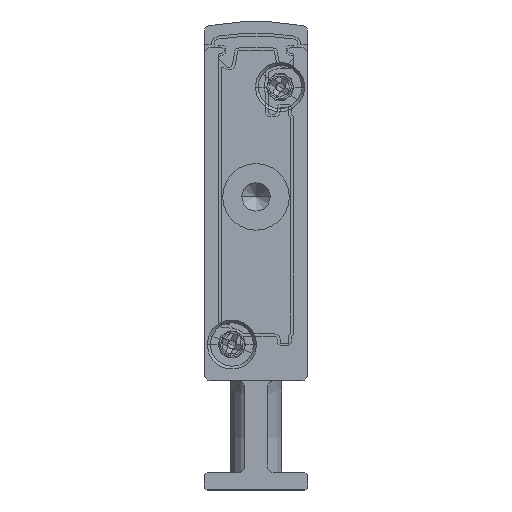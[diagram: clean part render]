
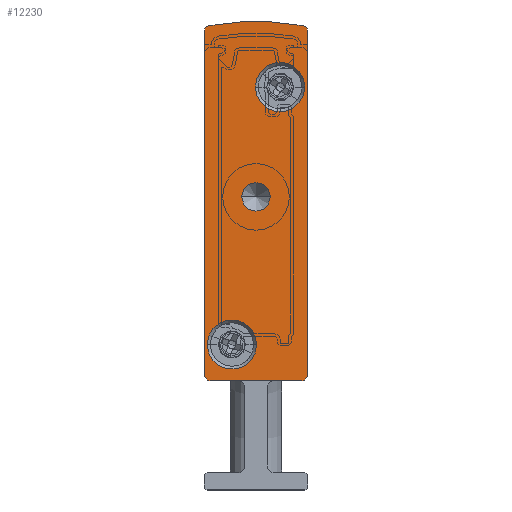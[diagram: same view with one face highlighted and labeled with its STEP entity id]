
A CAD part, front view. The second image highlights one B-rep face of the part: STEP entity #12230.
In plain terms, the highlighted planar face has unit normal (0, -1, 0).
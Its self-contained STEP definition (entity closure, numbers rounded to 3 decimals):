
#211 = AXIS2_PLACEMENT_3D ( 'NONE', #10282, #19526, #8897 ) ;
#276 = DIRECTION ( 'NONE',  ( 0., 1., 0. ) ) ;
#702 = CIRCLE ( 'NONE', #2559, 0.5 ) ;
#892 = EDGE_CURVE ( 'NONE', #13974, #13236, #7520, .T. ) ;
#1144 = FACE_BOUND ( 'NONE', #17922, .T. ) ;
#1153 = EDGE_LOOP ( 'NONE', ( #3478, #3242, #18495, #11240, #10588, #17582, #14154, #4224 ) ) ;
#1217 = DIRECTION ( 'NONE',  ( 1., 0., 0. ) ) ;
#1476 = DIRECTION ( 'NONE',  ( 0., 1., 0. ) ) ;
#2001 = VERTEX_POINT ( 'NONE', #2553 ) ;
#2228 = VERTEX_POINT ( 'NONE', #9335 ) ;
#2386 = DIRECTION ( 'NONE',  ( -1., 0., 0. ) ) ;
#2437 = VERTEX_POINT ( 'NONE', #9455 ) ;
#2446 = CARTESIAN_POINT ( 'NONE',  ( 8.592, -2.5, 40.393 ) ) ;
#2553 = CARTESIAN_POINT ( 'NONE',  ( 0.25, -2.5, 12.65 ) ) ;
#2559 = AXIS2_PLACEMENT_3D ( 'NONE', #18258, #4574, #12361 ) ;
#2587 = EDGE_LOOP ( 'NONE', ( #8119, #17499 ) ) ;
#3146 = EDGE_CURVE ( 'NONE', #12506, #14432, #16097, .T. ) ;
#3242 = ORIENTED_EDGE ( 'NONE', *, *, #3146, .F. ) ;
#3312 = FACE_BOUND ( 'NONE', #2587, .T. ) ;
#3406 = AXIS2_PLACEMENT_3D ( 'NONE', #12368, #1476, #15459 ) ;
#3478 = ORIENTED_EDGE ( 'NONE', *, *, #4890, .F. ) ;
#3857 = DIRECTION ( 'NONE',  ( 0., -1., 0. ) ) ;
#4224 = ORIENTED_EDGE ( 'NONE', *, *, #892, .F. ) ;
#4239 = CARTESIAN_POINT ( 'NONE',  ( 6.6, -2.5, 35.05 ) ) ;
#4481 = ORIENTED_EDGE ( 'NONE', *, *, #16121, .F. ) ;
#4574 = DIRECTION ( 'NONE',  ( 0., 1., 0. ) ) ;
#4754 = CIRCLE ( 'NONE', #3406, 0.5 ) ;
#4857 = CIRCLE ( 'NONE', #11330, 1.25 ) ;
#4890 = EDGE_CURVE ( 'NONE', #14432, #13974, #702, .T. ) ;
#5010 = AXIS2_PLACEMENT_3D ( 'NONE', #7862, #18575, #10784 ) ;
#5027 = VERTEX_POINT ( 'NONE', #15600 ) ;
#5109 = VERTEX_POINT ( 'NONE', #5300 ) ;
#5300 = CARTESIAN_POINT ( 'NONE',  ( 4.45, -2.5, 35.05 ) ) ;
#5500 = CIRCLE ( 'NONE', #16361, 1.25 ) ;
#5507 = CIRCLE ( 'NONE', #211, 2.15 ) ;
#5712 = ORIENTED_EDGE ( 'NONE', *, *, #11156, .F. ) ;
#5715 = FACE_BOUND ( 'NONE', #6075, .T. ) ;
#5786 = DIRECTION ( 'NONE',  ( 0., -1., 0. ) ) ;
#6075 = EDGE_LOOP ( 'NONE', ( #5712, #15091 ) ) ;
#6196 = CIRCLE ( 'NONE', #18620, 2.15 ) ;
#6323 = PLANE ( 'NONE',  #5010 ) ;
#6386 = EDGE_CURVE ( 'NONE', #18625, #2437, #5500, .T. ) ;
#6507 = EDGE_CURVE ( 'NONE', #5109, #13774, #6196, .T. ) ;
#6786 = DIRECTION ( 'NONE',  ( -1., 0., 0. ) ) ;
#6935 = CARTESIAN_POINT ( 'NONE',  ( 0.5, -2.5, 10. ) ) ;
#7155 = AXIS2_PLACEMENT_3D ( 'NONE', #10852, #276, #15702 ) ;
#7298 = DIRECTION ( 'NONE',  ( 1., 0., 0. ) ) ;
#7458 = VERTEX_POINT ( 'NONE', #11051 ) ;
#7520 = CIRCLE ( 'NONE', #14752, 23.658 ) ;
#7567 = DIRECTION ( 'NONE',  ( 0., 0., 1. ) ) ;
#7824 = CIRCLE ( 'NONE', #7155, 0.5 ) ;
#7862 = CARTESIAN_POINT ( 'NONE',  ( 0.5, -2.5, 39.902 ) ) ;
#8119 = ORIENTED_EDGE ( 'NONE', *, *, #6386, .T. ) ;
#8267 = DIRECTION ( 'NONE',  ( -1., 0., 0. ) ) ;
#8530 = CARTESIAN_POINT ( 'NONE',  ( 9., -2.5, 39.902 ) ) ;
#8818 = FACE_OUTER_BOUND ( 'NONE', #1153, .T. ) ;
#8897 = DIRECTION ( 'NONE',  ( 1., 0., 0. ) ) ;
#8903 = CARTESIAN_POINT ( 'NONE',  ( 4.5, -2.5, 17.092 ) ) ;
#9194 = CARTESIAN_POINT ( 'NONE',  ( 0., -2.5, 39.902 ) ) ;
#9286 = DIRECTION ( 'NONE',  ( -1., 0., 0. ) ) ;
#9335 = CARTESIAN_POINT ( 'NONE',  ( 8.5, -2.5, 9.5 ) ) ;
#9455 = CARTESIAN_POINT ( 'NONE',  ( 5.75, -2.5, 25.5 ) ) ;
#10063 = CARTESIAN_POINT ( 'NONE',  ( 8.75, -2.5, 35.05 ) ) ;
#10282 = CARTESIAN_POINT ( 'NONE',  ( 2.4, -2.5, 12.65 ) ) ;
#10310 = CARTESIAN_POINT ( 'NONE',  ( 0., -2.5, 39.902 ) ) ;
#10415 = CARTESIAN_POINT ( 'NONE',  ( 2.4, -2.5, 12.65 ) ) ;
#10588 = ORIENTED_EDGE ( 'NONE', *, *, #12418, .F. ) ;
#10784 = DIRECTION ( 'NONE',  ( -1., 0., 0. ) ) ;
#10852 = CARTESIAN_POINT ( 'NONE',  ( 8.5, -2.5, 39.902 ) ) ;
#11051 = CARTESIAN_POINT ( 'NONE',  ( 4.55, -2.5, 12.65 ) ) ;
#11112 = VECTOR ( 'NONE', #19362, 1000. ) ;
#11156 = EDGE_CURVE ( 'NONE', #13774, #5109, #16439, .T. ) ;
#11240 = ORIENTED_EDGE ( 'NONE', *, *, #17081, .F. ) ;
#11323 = CARTESIAN_POINT ( 'NONE',  ( 4.5, -2.5, 25.5 ) ) ;
#11330 = AXIS2_PLACEMENT_3D ( 'NONE', #16131, #17627, #2386 ) ;
#11505 = LINE ( 'NONE', #19323, #17253 ) ;
#11770 = VECTOR ( 'NONE', #7567, 1000. ) ;
#11979 = DIRECTION ( 'NONE',  ( 0., -1., 0. ) ) ;
#12230 = ADVANCED_FACE ( 'NONE', ( #5715, #1144, #8818, #3312 ), #6323, .F. ) ;
#12361 = DIRECTION ( 'NONE',  ( -1., 0., 0. ) ) ;
#12368 = CARTESIAN_POINT ( 'NONE',  ( 8.5, -2.5, 10. ) ) ;
#12418 = EDGE_CURVE ( 'NONE', #13255, #2228, #4754, .T. ) ;
#12506 = VERTEX_POINT ( 'NONE', #18671 ) ;
#13138 = CARTESIAN_POINT ( 'NONE',  ( 6.6, -2.5, 35.05 ) ) ;
#13236 = VERTEX_POINT ( 'NONE', #2446 ) ;
#13255 = VERTEX_POINT ( 'NONE', #14672 ) ;
#13564 = EDGE_CURVE ( 'NONE', #13236, #5027, #7824, .T. ) ;
#13586 = VERTEX_POINT ( 'NONE', #14210 ) ;
#13774 = VERTEX_POINT ( 'NONE', #10063 ) ;
#13791 = CARTESIAN_POINT ( 'NONE',  ( 0.408, -2.5, 40.393 ) ) ;
#13974 = VERTEX_POINT ( 'NONE', #13791 ) ;
#14154 = ORIENTED_EDGE ( 'NONE', *, *, #13564, .F. ) ;
#14210 = CARTESIAN_POINT ( 'NONE',  ( 0.5, -2.5, 9.5 ) ) ;
#14432 = VERTEX_POINT ( 'NONE', #10310 ) ;
#14672 = CARTESIAN_POINT ( 'NONE',  ( 9., -2.5, 10. ) ) ;
#14752 = AXIS2_PLACEMENT_3D ( 'NONE', #8903, #18058, #14900 ) ;
#14900 = DIRECTION ( 'NONE',  ( -1., 0., 0. ) ) ;
#15091 = ORIENTED_EDGE ( 'NONE', *, *, #6507, .F. ) ;
#15459 = DIRECTION ( 'NONE',  ( -1., 0., 0. ) ) ;
#15600 = CARTESIAN_POINT ( 'NONE',  ( 9., -2.5, 39.902 ) ) ;
#15663 = EDGE_CURVE ( 'NONE', #7458, #2001, #17236, .T. ) ;
#15702 = DIRECTION ( 'NONE',  ( -1., 0., 0. ) ) ;
#15778 = DIRECTION ( 'NONE',  ( 0., 1., 0. ) ) ;
#16084 = AXIS2_PLACEMENT_3D ( 'NONE', #10415, #11979, #1217 ) ;
#16097 = LINE ( 'NONE', #9194, #11770 ) ;
#16121 = EDGE_CURVE ( 'NONE', #2001, #7458, #5507, .T. ) ;
#16131 = CARTESIAN_POINT ( 'NONE',  ( 4.5, -2.5, 25.5 ) ) ;
#16361 = AXIS2_PLACEMENT_3D ( 'NONE', #11323, #15778, #6786 ) ;
#16439 = CIRCLE ( 'NONE', #17093, 2.15 ) ;
#16879 = LINE ( 'NONE', #8530, #11112 ) ;
#16930 = EDGE_CURVE ( 'NONE', #2437, #18625, #4857, .T. ) ;
#17081 = EDGE_CURVE ( 'NONE', #2228, #13586, #11505, .T. ) ;
#17093 = AXIS2_PLACEMENT_3D ( 'NONE', #4239, #5786, #7298 ) ;
#17236 = CIRCLE ( 'NONE', #16084, 2.15 ) ;
#17253 = VECTOR ( 'NONE', #9286, 1000. ) ;
#17411 = EDGE_CURVE ( 'NONE', #5027, #13255, #16879, .T. ) ;
#17499 = ORIENTED_EDGE ( 'NONE', *, *, #16930, .T. ) ;
#17538 = DIRECTION ( 'NONE',  ( 1., 0., 0. ) ) ;
#17582 = ORIENTED_EDGE ( 'NONE', *, *, #17411, .F. ) ;
#17605 = DIRECTION ( 'NONE',  ( 0., 1., 0. ) ) ;
#17627 = DIRECTION ( 'NONE',  ( 0., 1., 0. ) ) ;
#17922 = EDGE_LOOP ( 'NONE', ( #18885, #4481 ) ) ;
#18058 = DIRECTION ( 'NONE',  ( 0., 1., 0. ) ) ;
#18258 = CARTESIAN_POINT ( 'NONE',  ( 0.5, -2.5, 39.902 ) ) ;
#18495 = ORIENTED_EDGE ( 'NONE', *, *, #19356, .F. ) ;
#18575 = DIRECTION ( 'NONE',  ( 0., 1., 0. ) ) ;
#18620 = AXIS2_PLACEMENT_3D ( 'NONE', #13138, #3857, #17538 ) ;
#18625 = VERTEX_POINT ( 'NONE', #19785 ) ;
#18631 = CIRCLE ( 'NONE', #18647, 0.5 ) ;
#18647 = AXIS2_PLACEMENT_3D ( 'NONE', #6935, #17605, #8267 ) ;
#18671 = CARTESIAN_POINT ( 'NONE',  ( 0., -2.5, 10. ) ) ;
#18885 = ORIENTED_EDGE ( 'NONE', *, *, #15663, .F. ) ;
#19323 = CARTESIAN_POINT ( 'NONE',  ( 0.5, -2.5, 9.5 ) ) ;
#19356 = EDGE_CURVE ( 'NONE', #13586, #12506, #18631, .T. ) ;
#19362 = DIRECTION ( 'NONE',  ( 0., 0., -1. ) ) ;
#19526 = DIRECTION ( 'NONE',  ( 0., -1., 0. ) ) ;
#19785 = CARTESIAN_POINT ( 'NONE',  ( 3.25, -2.5, 25.5 ) ) ;
